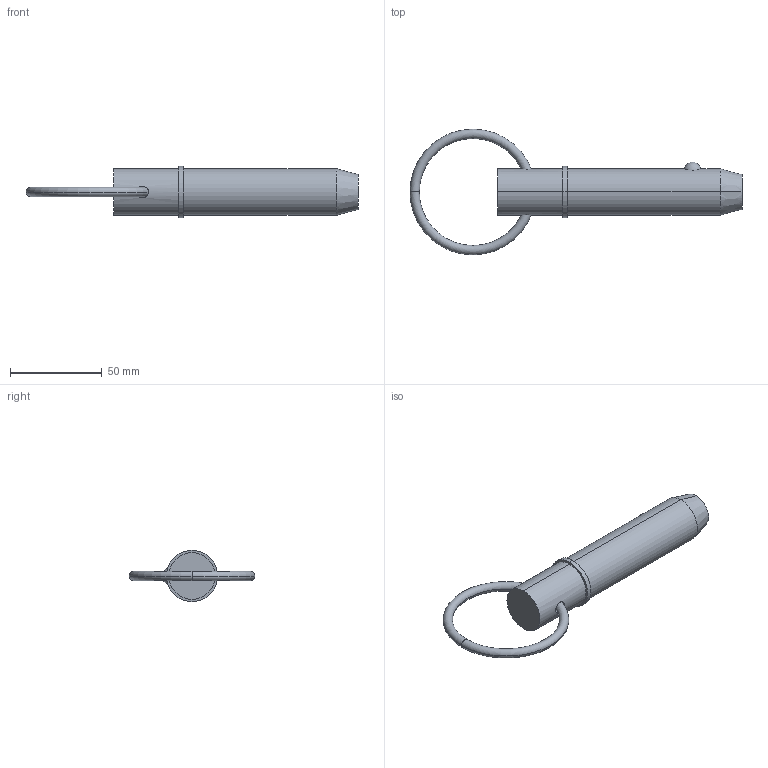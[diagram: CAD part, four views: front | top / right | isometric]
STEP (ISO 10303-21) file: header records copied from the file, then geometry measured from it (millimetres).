
FILE_DESCRIPTION (( 'STEP AP203' ), '1' );
FILE_NAME ('33016.W1025.step', '2024-11-07T11:18:17', ( '' ), ( '' ), 'SwSTEP 2.0', 'SolidWorks 2019', '' );
FILE_SCHEMA (( 'CONFIG_CONTROL_DESIGN' ));
Length unit declared in the file: millimetre
Products named in the file (3): Part2_33016.W1025; 33016.W1025; Part1_33016.W1025
Assembly tree (2 placements, depth 2):
  33016.W1025
    Part1_33016.W1025
    Part2_33016.W1025
Bounding box: 181.12 x 68.58 x 27.94 mm (x, y, z)
Volume: 69847.1 mm3; surface area: 15253.5 mm2
Topology: 2 solids, 2 shells, 22 faces, 43 edges, 26 vertices
Faces by surface type: torus 8, cylinder 6, plane 4, sphere 2, cone 2
Entity records: 1075 total; most frequent: CARTESIAN_POINT 298, DIRECTION 120, ORIENTED_EDGE 86, AXIS2_PLACEMENT_3D 56, EDGE_CURVE 43, CIRCLE 29, EDGE_LOOP 27, VERTEX_POINT 26
